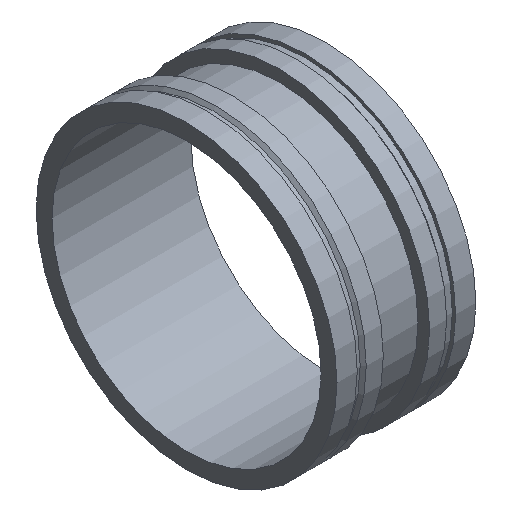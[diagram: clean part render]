
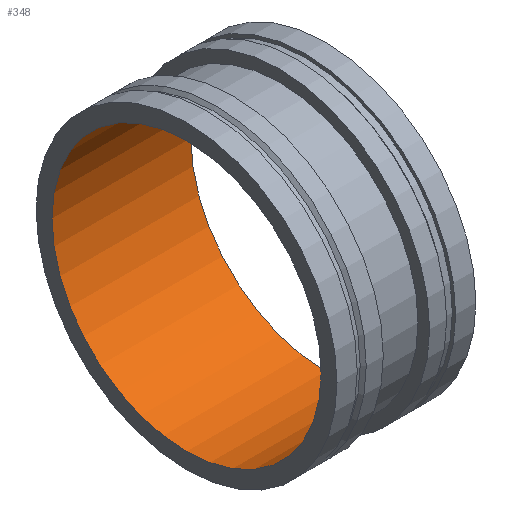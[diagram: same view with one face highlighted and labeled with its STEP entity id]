
A CAD part, isometric view. The second image highlights one B-rep face of the part: STEP entity #348.
In plain terms, the highlighted cylindrical face has radius 295.275 mm (diameter 590.55 mm), a full revolution.
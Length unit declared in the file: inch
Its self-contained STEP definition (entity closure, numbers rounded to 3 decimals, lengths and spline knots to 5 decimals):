
#56=LINE('',#654,#66);
#66=VECTOR('',#537,11.625);
#74=CYLINDRICAL_SURFACE('',#416,11.625);
#96=FACE_OUTER_BOUND('',#118,.T.);
#118=EDGE_LOOP('',(#303,#304,#305,#306,#307,#308));
#121=CIRCLE('',#372,11.625);
#122=CIRCLE('',#373,11.625);
#149=CIRCLE('',#414,11.625);
#150=CIRCLE('',#415,11.625);
#153=VERTEX_POINT('',#570);
#154=VERTEX_POINT('',#571);
#181=VERTEX_POINT('',#649);
#182=VERTEX_POINT('',#650);
#185=EDGE_CURVE('',#153,#154,#121,.T.);
#186=EDGE_CURVE('',#154,#153,#122,.T.);
#222=EDGE_CURVE('',#181,#182,#149,.T.);
#223=EDGE_CURVE('',#182,#181,#150,.T.);
#224=EDGE_CURVE('',#182,#154,#56,.T.);
#303=ORIENTED_EDGE('',*,*,#222,.T.);
#304=ORIENTED_EDGE('',*,*,#224,.T.);
#305=ORIENTED_EDGE('',*,*,#185,.F.);
#306=ORIENTED_EDGE('',*,*,#186,.F.);
#307=ORIENTED_EDGE('',*,*,#224,.F.);
#308=ORIENTED_EDGE('',*,*,#223,.T.);
#348=ADVANCED_FACE('',(#96),#74,.F.);
#372=AXIS2_PLACEMENT_3D('',#572,#438,#439);
#373=AXIS2_PLACEMENT_3D('',#573,#440,#441);
#414=AXIS2_PLACEMENT_3D('',#651,#531,#532);
#415=AXIS2_PLACEMENT_3D('',#652,#533,#534);
#416=AXIS2_PLACEMENT_3D('',#653,#535,#536);
#438=DIRECTION('center_axis',(1.,0.,0.));
#439=DIRECTION('ref_axis',(0.,0.,-1.));
#440=DIRECTION('center_axis',(1.,0.,0.));
#441=DIRECTION('ref_axis',(0.,0.,-1.));
#531=DIRECTION('center_axis',(1.,0.,0.));
#532=DIRECTION('ref_axis',(0.,0.,-1.));
#533=DIRECTION('center_axis',(1.,0.,0.));
#534=DIRECTION('ref_axis',(0.,0.,-1.));
#535=DIRECTION('center_axis',(1.,0.,0.));
#536=DIRECTION('ref_axis',(0.,1.,0.));
#537=DIRECTION('',(-1.,0.,0.));
#570=CARTESIAN_POINT('',(0.,11.625,0.));
#571=CARTESIAN_POINT('',(0.,-11.625,0.));
#572=CARTESIAN_POINT('Origin',(0.,0.,
0.));
#573=CARTESIAN_POINT('Origin',(0.,0.,
0.));
#649=CARTESIAN_POINT('',(12.,11.625,0.));
#650=CARTESIAN_POINT('',(12.,-11.625,0.));
#651=CARTESIAN_POINT('Origin',(12.,0.,0.));
#652=CARTESIAN_POINT('Origin',(12.,0.,0.));
#653=CARTESIAN_POINT('Origin',(6.,0.,0.));
#654=CARTESIAN_POINT('',(6.,-11.625,0.));
